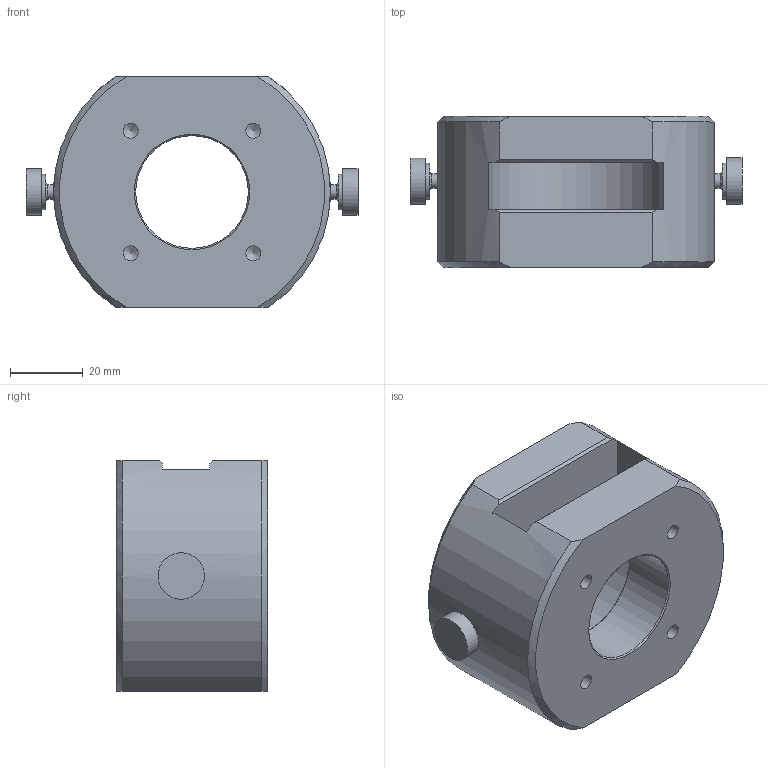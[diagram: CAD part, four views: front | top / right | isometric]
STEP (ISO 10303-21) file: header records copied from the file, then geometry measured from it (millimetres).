
FILE_DESCRIPTION (( 'STEP AP214' ), '1' );
FILE_NAME ('PCH-25-0.STEP', '2024-02-28T22:38:42', ( '' ), ( '' ), 'SwSTEP 2.0', 'SolidWorks 2023', '' );
FILE_SCHEMA (( 'AUTOMOTIVE_DESIGN' ));
Length unit declared in the file: inch
Products named in the file (1): PCH-25-0
Bounding box: 91.39 x 41.66 x 63.5 mm (x, y, z)
Volume: 119663.4 mm3; surface area: 28836.2 mm2
Topology: 1 solids, 7 shells, 210 faces, 488 edges, 320 vertices
Faces by surface type: plane 89, cylinder 83, cone 26, torus 12
Full cylindrical faces by diameter (mm): 3.3 x6, 4 x8, 4.2 x10, 4.216 x4, 7 x6, 7.137 x4, 9.87 x2, 12.8 x2, 30.988 x2
Entity records: 5527 total; most frequent: CARTESIAN_POINT 1077, DIRECTION 978, ORIENTED_EDGE 756, AXIS2_PLACEMENT_3D 405, EDGE_CURVE 378, EDGE_LOOP 320, VERTEX_POINT 288, FACE_OUTER_BOUND 266
